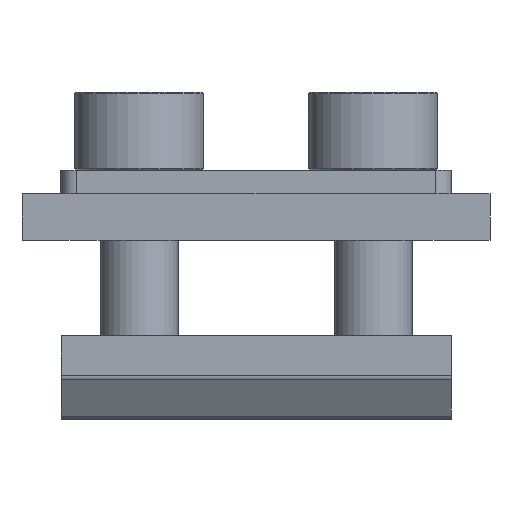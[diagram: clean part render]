
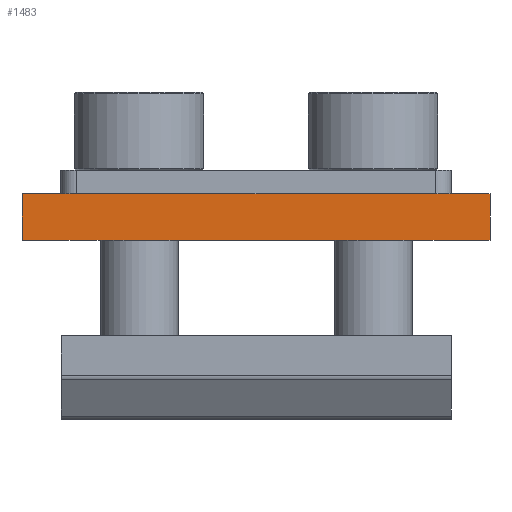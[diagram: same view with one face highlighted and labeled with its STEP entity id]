
A CAD part, front view. The second image highlights one B-rep face of the part: STEP entity #1483.
In plain terms, the highlighted planar face has unit normal (0, -1, 0).
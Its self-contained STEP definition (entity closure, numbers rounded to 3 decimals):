
#16 = PLANE ( 'NONE',  #1204 ) ;
#29 = CARTESIAN_POINT ( 'NONE',  ( -15., -50., 3. ) ) ;
#46 = CARTESIAN_POINT ( 'NONE',  ( 15., -50., 3. ) ) ;
#368 = LINE ( 'NONE', #1209, #1260 ) ;
#373 = VECTOR ( 'NONE', #1847, 1000. ) ;
#672 = DIRECTION ( 'NONE',  ( 0., 0., 1. ) ) ;
#877 = ORIENTED_EDGE ( 'NONE', *, *, #2000, .T. ) ;
#890 = DIRECTION ( 'NONE',  ( 1., 0., 0. ) ) ;
#953 = EDGE_CURVE ( 'NONE', #3013, #3589, #2143, .T. ) ;
#1161 = CARTESIAN_POINT ( 'NONE',  ( 15., -50., 3. ) ) ;
#1204 = AXIS2_PLACEMENT_3D ( 'NONE', #46, #3148, #672 ) ;
#1209 = CARTESIAN_POINT ( 'NONE',  ( 15., -50., 3. ) ) ;
#1260 = VECTOR ( 'NONE', #890, 1000. ) ;
#1335 = EDGE_CURVE ( 'NONE', #1441, #3634, #3965, .T. ) ;
#1435 = CARTESIAN_POINT ( 'NONE',  ( 15., -50., 0. ) ) ;
#1441 = VERTEX_POINT ( 'NONE', #29 ) ;
#1458 = CARTESIAN_POINT ( 'NONE',  ( 15., -50., 0. ) ) ;
#1483 = ADVANCED_FACE ( 'NONE', ( #1604 ), #16, .F. ) ;
#1564 = DIRECTION ( 'NONE',  ( 0., 0., -1. ) ) ;
#1604 = FACE_OUTER_BOUND ( 'NONE', #3442, .T. ) ;
#1694 = ORIENTED_EDGE ( 'NONE', *, *, #953, .F. ) ;
#1847 = DIRECTION ( 'NONE',  ( 0., 0., -1. ) ) ;
#2000 = EDGE_CURVE ( 'NONE', #3634, #3589, #4039, .T. ) ;
#2134 = CARTESIAN_POINT ( 'NONE',  ( -15., -50., 3. ) ) ;
#2143 = LINE ( 'NONE', #2435, #373 ) ;
#2326 = ORIENTED_EDGE ( 'NONE', *, *, #1335, .T. ) ;
#2350 = VECTOR ( 'NONE', #3973, 1000. ) ;
#2418 = ORIENTED_EDGE ( 'NONE', *, *, #2498, .F. ) ;
#2435 = CARTESIAN_POINT ( 'NONE',  ( 15., -50., 3. ) ) ;
#2498 = EDGE_CURVE ( 'NONE', #1441, #3013, #368, .T. ) ;
#2878 = VECTOR ( 'NONE', #1564, 1000. ) ;
#3013 = VERTEX_POINT ( 'NONE', #1161 ) ;
#3148 = DIRECTION ( 'NONE',  ( 0., 1., 0. ) ) ;
#3338 = CARTESIAN_POINT ( 'NONE',  ( -15., -50., 0. ) ) ;
#3442 = EDGE_LOOP ( 'NONE', ( #877, #1694, #2418, #2326 ) ) ;
#3589 = VERTEX_POINT ( 'NONE', #1435 ) ;
#3634 = VERTEX_POINT ( 'NONE', #3338 ) ;
#3965 = LINE ( 'NONE', #2134, #2878 ) ;
#3973 = DIRECTION ( 'NONE',  ( 1., 0., 0. ) ) ;
#4039 = LINE ( 'NONE', #1458, #2350 ) ;
